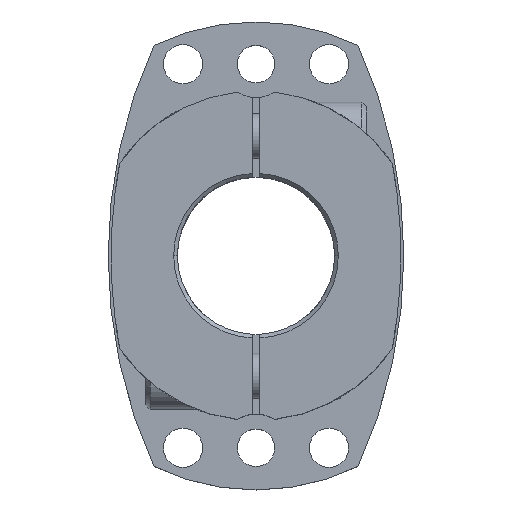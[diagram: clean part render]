
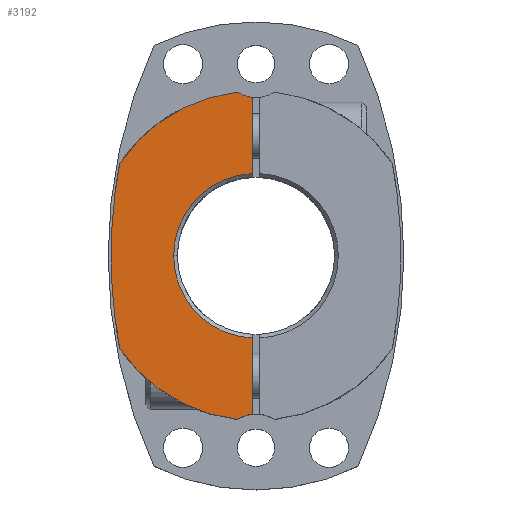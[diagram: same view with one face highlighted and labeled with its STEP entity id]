
A CAD part, top view. The second image highlights one B-rep face of the part: STEP entity #3192.
In plain terms, the highlighted planar face has unit normal (0, 0, 1).
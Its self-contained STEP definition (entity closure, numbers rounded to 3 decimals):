
#412=CARTESIAN_POINT('',(-22.,0.,36.0));
#413=VERTEX_POINT('',#412);
#421=CARTESIAN_POINT('',(-1.,21.977,36.0));
#422=VERTEX_POINT('',#421);
#436=CARTESIAN_POINT('',(0.,0.,36.0));
#437=DIRECTION('',(0.0,0.0,1.0));
#438=DIRECTION('',(-1.0,0.0,0.0));
#439=AXIS2_PLACEMENT_3D('',#436,#437,#438);
#440=CIRCLE('',#439,22.0);
#441=EDGE_CURVE('',#422,#413,#440,.T.);
#924=CARTESIAN_POINT('',(-38.7,0.,36.0));
#925=VERTEX_POINT('',#924);
#934=CARTESIAN_POINT('',(-36.405,24.712,36.0));
#935=VERTEX_POINT('',#934);
#936=CARTESIAN_POINT('',(95.5,0.,36.0));
#937=DIRECTION('',(0.0,0.0,-1.0));
#938=DIRECTION('',(1.0,0.0,0.0));
#939=AXIS2_PLACEMENT_3D('',#936,#937,#938);
#940=CIRCLE('',#939,134.2);
#941=EDGE_CURVE('',#925,#935,#940,.T.);
#2308=CARTESIAN_POINT('',(-36.405,-24.712,36.0));
#2309=VERTEX_POINT('',#2308);
#2316=CARTESIAN_POINT('',(95.5,0.,36.0));
#2317=DIRECTION('',(0.0,0.0,-1.0));
#2318=DIRECTION('',(1.0,0.0,0.0));
#2319=AXIS2_PLACEMENT_3D('',#2316,#2317,#2318);
#2320=CIRCLE('',#2319,134.2);
#2321=EDGE_CURVE('',#2309,#925,#2320,.T.);
#2753=CARTESIAN_POINT('',(-1.,42.306,36.0));
#2754=VERTEX_POINT('',#2753);
#2770=CARTESIAN_POINT('',(-4.933,43.723,36.0));
#2771=VERTEX_POINT('',#2770);
#2778=CARTESIAN_POINT('',(0.,51.25,36.0));
#2779=DIRECTION('',(0.0,0.0,-1.0));
#2780=DIRECTION('',(1.0,0.0,0.0));
#2781=AXIS2_PLACEMENT_3D('',#2778,#2779,#2780);
#2782=CIRCLE('',#2781,9.0);
#2783=EDGE_CURVE('',#2754,#2771,#2782,.T.);
#2837=CARTESIAN_POINT('',(-4.933,-43.723,36.0));
#2838=VERTEX_POINT('',#2837);
#2854=CARTESIAN_POINT('',(-1.,-42.306,36.0));
#2855=VERTEX_POINT('',#2854);
#2862=CARTESIAN_POINT('',(0.,-51.25,36.0));
#2863=DIRECTION('',(0.0,0.0,-1.0));
#2864=DIRECTION('',(1.0,0.0,0.0));
#2865=AXIS2_PLACEMENT_3D('',#2862,#2863,#2864);
#2866=CIRCLE('',#2865,9.0);
#2867=EDGE_CURVE('',#2838,#2855,#2866,.T.);
#2986=CARTESIAN_POINT('',(-1.,21.977,36.0));
#2987=DIRECTION('',(0.0,1.0,0.0));
#2988=VECTOR('',#2987,20.328);
#2989=LINE('',#2986,#2988);
#2990=EDGE_CURVE('',#422,#2754,#2989,.T.);
#3143=CARTESIAN_POINT('',(0.,0.,36.0));
#3144=DIRECTION('',(0.0,0.0,-1.0));
#3145=DIRECTION('',(1.0,0.0,0.0));
#3146=AXIS2_PLACEMENT_3D('',#3143,#3144,#3145);
#3147=CIRCLE('',#3146,44.);
#3148=EDGE_CURVE('',#2838,#2309,#3147,.T.);
#3156=CARTESIAN_POINT('',(0.,0.,36.0));
#3157=DIRECTION('',(0.0,0.0,1.0));
#3158=DIRECTION('',(1.0,0.0,0.0));
#3159=AXIS2_PLACEMENT_3D('',#3156,#3157,#3158);
#3160=PLANE('',#3159);
#3161=ORIENTED_EDGE('',*,*,#2783,.T.);
#3162=CARTESIAN_POINT('',(0.,0.,36.0));
#3163=DIRECTION('',(0.0,0.0,-1.0));
#3164=DIRECTION('',(1.0,0.0,0.0));
#3165=AXIS2_PLACEMENT_3D('',#3162,#3163,#3164);
#3166=CIRCLE('',#3165,44.);
#3167=EDGE_CURVE('',#935,#2771,#3166,.T.);
#3168=ORIENTED_EDGE('',*,*,#3167,.F.);
#3169=ORIENTED_EDGE('',*,*,#941,.F.);
#3170=ORIENTED_EDGE('',*,*,#2321,.F.);
#3171=ORIENTED_EDGE('',*,*,#3148,.F.);
#3172=ORIENTED_EDGE('',*,*,#2867,.T.);
#3173=CARTESIAN_POINT('',(-1.,-21.977,36.0));
#3174=VERTEX_POINT('',#3173);
#3175=CARTESIAN_POINT('',(-1.,-42.306,36.0));
#3176=DIRECTION('',(0.0,1.0,0.0));
#3177=VECTOR('',#3176,20.328);
#3178=LINE('',#3175,#3177);
#3179=EDGE_CURVE('',#2855,#3174,#3178,.T.);
#3180=ORIENTED_EDGE('',*,*,#3179,.T.);
#3181=CARTESIAN_POINT('',(0.,0.,36.0));
#3182=DIRECTION('',(0.0,0.0,1.0));
#3183=DIRECTION('',(-1.0,0.0,0.0));
#3184=AXIS2_PLACEMENT_3D('',#3181,#3182,#3183);
#3185=CIRCLE('',#3184,22.0);
#3186=EDGE_CURVE('',#413,#3174,#3185,.T.);
#3187=ORIENTED_EDGE('',*,*,#3186,.F.);
#3188=ORIENTED_EDGE('',*,*,#441,.F.);
#3189=ORIENTED_EDGE('',*,*,#2990,.T.);
#3190=EDGE_LOOP('',(#3161,#3168,#3169,#3170,#3171,#3172,#3180,#3187,#3188,#3189));
#3191=FACE_OUTER_BOUND('',#3190,.T.);
#3192=ADVANCED_FACE('',(#3191),#3160,.T.);
